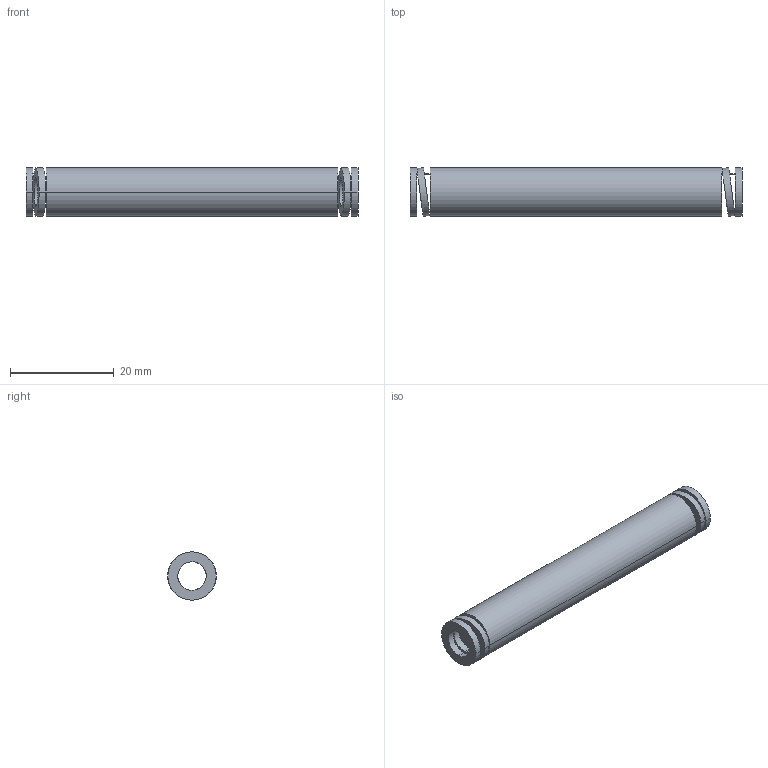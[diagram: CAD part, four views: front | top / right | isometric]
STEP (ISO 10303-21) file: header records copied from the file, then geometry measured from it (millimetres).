
FILE_DESCRIPTION(('CATIA V5 STEP Exchange'),'2;1');
FILE_NAME('C:\Users\Utente\Desktop\IO LAVORO\3D X SITO CF\X SITO\3D files 392B\392-B10-064.stp','2021-08-12T12:53:28+00:00',('none'),('none'),'CATIA Version 5 Release 20 GA (IN-10)','CATIA V5 STEP AP203','none');
FILE_SCHEMA(('CONFIG_CONTROL_DESIGN'));
Length unit declared in the file: millimetre
Products named in the file (1): 392-B10-064
Bounding box: 64 x 9.39 x 9.3 mm (x, y, z)
Volume: 2715.4 mm3; surface area: 3301.3 mm2
Topology: 1 solids, 1 shells, 38 faces, 92 edges, 64 vertices
Faces by surface type: cylinder 28, plane 10
Entity records: 1548 total; most frequent: CARTESIAN_POINT 659, ORIENTED_EDGE 184, DIRECTION 129, EDGE_CURVE 92, AXIS2_PLACEMENT_3D 64, VERTEX_POINT 64, EDGE_LOOP 56, B_SPLINE_CURVE_WITH_KNOTS 39
